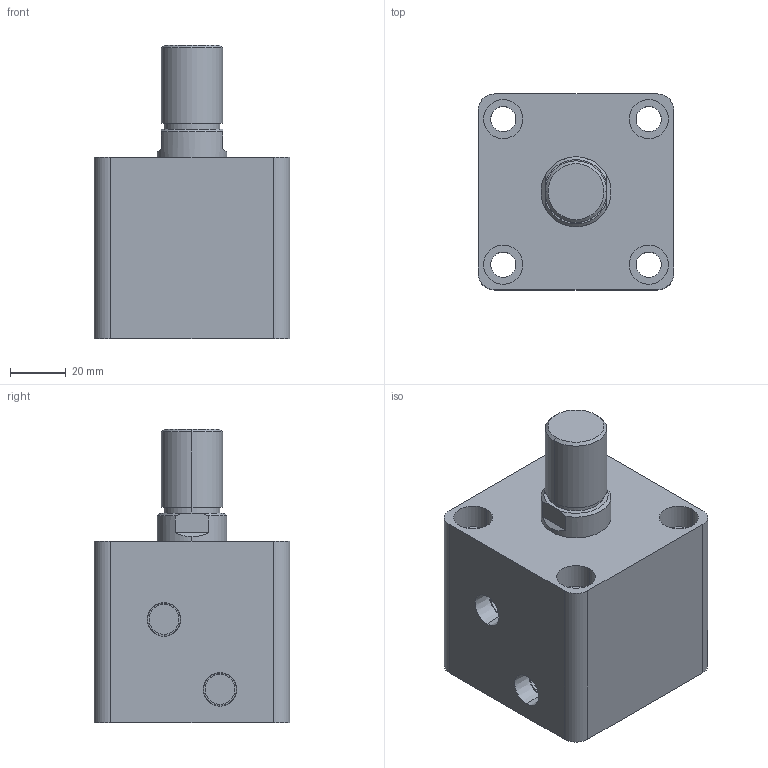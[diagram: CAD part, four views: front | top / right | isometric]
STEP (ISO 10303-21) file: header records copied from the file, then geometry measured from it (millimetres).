
FILE_DESCRIPTION (( 'STEP AP203' ), '1' );
FILE_NAME ('HTB-SD40-10W.STEP', '2019-10-07T06:47:10', ( '微软用户' ), ( '微软中国' ), 'SwSTEP 2.0', 'SolidWorks 2012', '' );
FILE_SCHEMA (( 'CONFIG_CONTROL_DESIGN' ));
Length unit declared in the file: millimetre
Products named in the file (3): HTB-SD40-10掛极; HTB-SD40-10W活塞杆; HTB-SD40-10W
Assembly tree (2 placements, depth 2):
  HTB-SD40-10W
    HTB-SD40-10掛极
    HTB-SD40-10W活塞杆
Bounding box: 70 x 70 x 105 mm (x, y, z)
Volume: 299772.5 mm3; surface area: 53597.9 mm2
Topology: 2 solids, 2 shells, 85 faces, 186 edges, 122 vertices
Faces by surface type: cylinder 44, plane 29, cone 8, torus 4
Entity records: 2709 total; most frequent: DIRECTION 466, CARTESIAN_POINT 426, ORIENTED_EDGE 372, AXIS2_PLACEMENT_3D 198, EDGE_CURVE 186, VERTEX_POINT 122, EDGE_LOOP 110, CIRCLE 108
